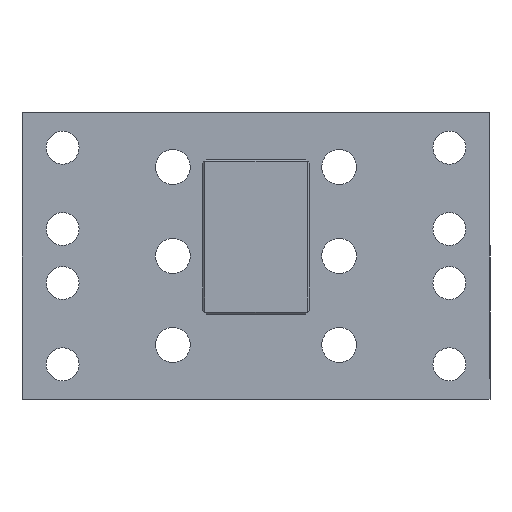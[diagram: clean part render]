
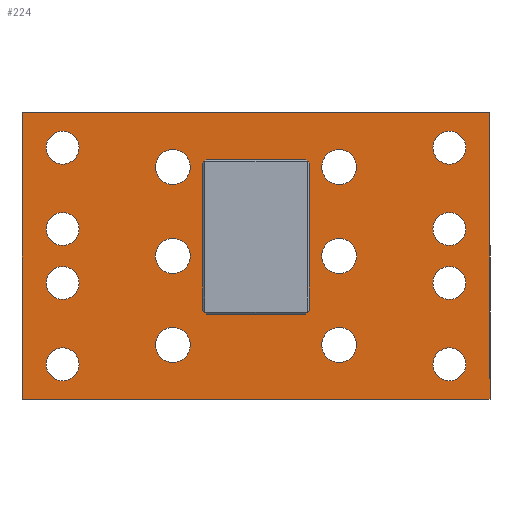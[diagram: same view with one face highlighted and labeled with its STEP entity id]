
A CAD part, front view. The second image highlights one B-rep face of the part: STEP entity #224.
In plain terms, the highlighted planar face has unit normal (0, -1, 0).
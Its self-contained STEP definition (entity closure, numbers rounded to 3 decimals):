
#224=ADVANCED_FACE('',(#719,#721,#723,#725,#727,#729,#731,#733,#735,#737,#739,#741,
#743,#745,#747,#749),#751,.F.);
#719=FACE_BOUND('',#720,.T.);
#720=EDGE_LOOP('',(#1065,#1066,#1067,#1068));
#721=FACE_BOUND('',#722,.T.);
#722=EDGE_LOOP('',(#1069,#1070,#1071,#1072,#1073,#1074,#1075,#1076));
#723=FACE_BOUND('',#724,.T.);
#724=EDGE_LOOP('',(#1077));
#725=FACE_BOUND('',#726,.T.);
#726=EDGE_LOOP('',(#1078));
#727=FACE_BOUND('',#728,.T.);
#728=EDGE_LOOP('',(#1079));
#729=FACE_BOUND('',#730,.T.);
#730=EDGE_LOOP('',(#1080));
#731=FACE_BOUND('',#732,.T.);
#732=EDGE_LOOP('',(#1081));
#733=FACE_BOUND('',#734,.T.);
#734=EDGE_LOOP('',(#1082));
#735=FACE_BOUND('',#736,.T.);
#736=EDGE_LOOP('',(#1083));
#737=FACE_BOUND('',#738,.T.);
#738=EDGE_LOOP('',(#1084));
#739=FACE_BOUND('',#740,.T.);
#740=EDGE_LOOP('',(#1085));
#741=FACE_BOUND('',#742,.T.);
#742=EDGE_LOOP('',(#1086));
#743=FACE_BOUND('',#744,.T.);
#744=EDGE_LOOP('',(#1087));
#745=FACE_BOUND('',#746,.T.);
#746=EDGE_LOOP('',(#1088));
#747=FACE_BOUND('',#748,.T.);
#748=EDGE_LOOP('',(#1089));
#749=FACE_BOUND('',#750,.T.);
#750=EDGE_LOOP('',(#1090));
#751=PLANE('',#752);
#752=AXIS2_PLACEMENT_3D('',#753,#754,#755);
#753=CARTESIAN_POINT('',(60.5,-5.,-35.));
#754=DIRECTION('',(0.,1.,0.));
#755=DIRECTION('',(-1.,0.,0.));
#1065=ORIENTED_EDGE('',*,*,#1263,.F.);
#1066=ORIENTED_EDGE('',*,*,#1264,.T.);
#1067=ORIENTED_EDGE('',*,*,#1265,.F.);
#1068=ORIENTED_EDGE('',*,*,#1266,.T.);
#1069=ORIENTED_EDGE('',*,*,#1267,.F.);
#1070=ORIENTED_EDGE('',*,*,#1268,.F.);
#1071=ORIENTED_EDGE('',*,*,#1269,.F.);
#1072=ORIENTED_EDGE('',*,*,#1270,.F.);
#1073=ORIENTED_EDGE('',*,*,#1271,.F.);
#1074=ORIENTED_EDGE('',*,*,#1272,.T.);
#1075=ORIENTED_EDGE('',*,*,#1273,.F.);
#1076=ORIENTED_EDGE('',*,*,#1274,.T.);
#1077=ORIENTED_EDGE('',*,*,#1228,.T.);
#1078=ORIENTED_EDGE('',*,*,#1230,.T.);
#1079=ORIENTED_EDGE('',*,*,#1232,.T.);
#1080=ORIENTED_EDGE('',*,*,#1234,.T.);
#1081=ORIENTED_EDGE('',*,*,#1236,.T.);
#1082=ORIENTED_EDGE('',*,*,#1238,.T.);
#1083=ORIENTED_EDGE('',*,*,#1275,.T.);
#1084=ORIENTED_EDGE('',*,*,#1276,.T.);
#1085=ORIENTED_EDGE('',*,*,#1277,.T.);
#1086=ORIENTED_EDGE('',*,*,#1278,.T.);
#1087=ORIENTED_EDGE('',*,*,#1279,.T.);
#1088=ORIENTED_EDGE('',*,*,#1280,.T.);
#1089=ORIENTED_EDGE('',*,*,#1281,.T.);
#1090=ORIENTED_EDGE('',*,*,#1282,.T.);
#1228=EDGE_CURVE('',#1337,#1337,#1338,.T.);
#1230=EDGE_CURVE('',#1341,#1341,#1342,.T.);
#1232=EDGE_CURVE('',#1345,#1345,#1346,.T.);
#1234=EDGE_CURVE('',#1349,#1349,#1350,.T.);
#1236=EDGE_CURVE('',#1353,#1353,#1354,.T.);
#1238=EDGE_CURVE('',#1357,#1357,#1358,.T.);
#1263=EDGE_CURVE('',#1407,#1408,#1409,.F.);
#1264=EDGE_CURVE('',#1407,#1410,#1411,.T.);
#1265=EDGE_CURVE('',#1412,#1410,#1413,.F.);
#1266=EDGE_CURVE('',#1412,#1408,#1414,.T.);
#1267=EDGE_CURVE('',#1415,#1416,#1417,.F.);
#1268=EDGE_CURVE('',#1418,#1415,#1419,.T.);
#1269=EDGE_CURVE('',#1420,#1418,#1421,.F.);
#1270=EDGE_CURVE('',#1422,#1420,#1423,.T.);
#1271=EDGE_CURVE('',#1424,#1422,#1425,.F.);
#1272=EDGE_CURVE('',#1424,#1426,#1427,.T.);
#1273=EDGE_CURVE('',#1428,#1426,#1429,.F.);
#1274=EDGE_CURVE('',#1428,#1416,#1430,.T.);
#1275=EDGE_CURVE('',#1431,#1431,#1432,.T.);
#1276=EDGE_CURVE('',#1433,#1433,#1434,.F.);
#1277=EDGE_CURVE('',#1435,#1435,#1436,.F.);
#1278=EDGE_CURVE('',#1437,#1437,#1438,.F.);
#1279=EDGE_CURVE('',#1439,#1439,#1440,.F.);
#1280=EDGE_CURVE('',#1441,#1441,#1442,.F.);
#1281=EDGE_CURVE('',#1443,#1443,#1444,.F.);
#1282=EDGE_CURVE('',#1445,#1445,#1446,.T.);
#1337=VERTEX_POINT('',#1532);
#1338=CIRCLE('',#1533,4.5);
#1341=VERTEX_POINT('',#1542);
#1342=CIRCLE('',#1543,4.5);
#1345=VERTEX_POINT('',#1552);
#1346=CIRCLE('',#1553,4.5);
#1349=VERTEX_POINT('',#1562);
#1350=CIRCLE('',#1563,4.5);
#1353=VERTEX_POINT('',#1572);
#1354=CIRCLE('',#1573,4.5);
#1357=VERTEX_POINT('',#1582);
#1358=CIRCLE('',#1583,4.5);
#1407=VERTEX_POINT('',#1699);
#1408=VERTEX_POINT('',#1700);
#1409=LINE('',#1701,#1702);
#1410=VERTEX_POINT('',#1704);
#1411=LINE('',#1705,#1706);
#1412=VERTEX_POINT('',#1708);
#1413=LINE('',#1709,#1710);
#1414=LINE('',#1712,#1713);
#1415=VERTEX_POINT('',#1715);
#1416=VERTEX_POINT('',#1716);
#1417=LINE('',#1717,#1718);
#1418=VERTEX_POINT('',#1720);
#1419=LINE('',#1721,#1722);
#1420=VERTEX_POINT('',#1724);
#1421=LINE('',#1725,#1726);
#1422=VERTEX_POINT('',#1728);
#1423=LINE('',#1729,#1730);
#1424=VERTEX_POINT('',#1732);
#1425=LINE('',#1733,#1734);
#1426=VERTEX_POINT('',#1736);
#1427=LINE('',#1737,#1738);
#1428=VERTEX_POINT('',#1740);
#1429=LINE('',#1741,#1742);
#1430=LINE('',#1744,#1745);
#1431=VERTEX_POINT('',#1747);
#1432=CIRCLE('',#1748,4.25);
#1433=VERTEX_POINT('',#1752);
#1434=CIRCLE('',#1753,4.25);
#1435=VERTEX_POINT('',#1757);
#1436=CIRCLE('',#1758,4.25);
#1437=VERTEX_POINT('',#1762);
#1438=CIRCLE('',#1763,4.25);
#1439=VERTEX_POINT('',#1767);
#1440=CIRCLE('',#1768,4.25);
#1441=VERTEX_POINT('',#1772);
#1442=CIRCLE('',#1773,4.25);
#1443=VERTEX_POINT('',#1777);
#1444=CIRCLE('',#1778,4.25);
#1445=VERTEX_POINT('',#1782);
#1446=CIRCLE('',#1783,4.25);
#1532=CARTESIAN_POINT('',(-17.,-5.,-23.));
#1533=AXIS2_PLACEMENT_3D('',#1534,#1535,#1536);
#1534=CARTESIAN_POINT('',(-21.5,-5.,-23.));
#1535=DIRECTION('',(0.,1.,0.));
#1536=DIRECTION('',(1.,0.,0.));
#1542=CARTESIAN_POINT('',(-17.,-5.,0.));
#1543=AXIS2_PLACEMENT_3D('',#1544,#1545,#1546);
#1544=CARTESIAN_POINT('',(-21.5,-5.,0.));
#1545=DIRECTION('',(0.,1.,0.));
#1546=DIRECTION('',(1.,0.,0.));
#1552=CARTESIAN_POINT('',(26.,-5.,-23.));
#1553=AXIS2_PLACEMENT_3D('',#1554,#1555,#1556);
#1554=CARTESIAN_POINT('',(21.5,-5.,-23.));
#1555=DIRECTION('',(0.,1.,0.));
#1556=DIRECTION('',(1.,0.,0.));
#1562=CARTESIAN_POINT('',(26.,-5.,0.));
#1563=AXIS2_PLACEMENT_3D('',#1564,#1565,#1566);
#1564=CARTESIAN_POINT('',(21.5,-5.,0.));
#1565=DIRECTION('',(0.,1.,0.));
#1566=DIRECTION('',(1.,0.,0.));
#1572=CARTESIAN_POINT('',(-17.,-5.,23.));
#1573=AXIS2_PLACEMENT_3D('',#1574,#1575,#1576);
#1574=CARTESIAN_POINT('',(-21.5,-5.,23.));
#1575=DIRECTION('',(0.,1.,0.));
#1576=DIRECTION('',(1.,0.,0.));
#1582=CARTESIAN_POINT('',(26.,-5.,23.));
#1583=AXIS2_PLACEMENT_3D('',#1584,#1585,#1586);
#1584=CARTESIAN_POINT('',(21.5,-5.,23.));
#1585=DIRECTION('',(0.,1.,0.));
#1586=DIRECTION('',(1.,0.,0.));
#1699=CARTESIAN_POINT('',(60.5,-5.,37.));
#1700=CARTESIAN_POINT('',(60.5,-5.,-37.));
#1701=CARTESIAN_POINT('',(60.5,-5.,-37.));
#1702=VECTOR('',#1703,1.);
#1703=DIRECTION('',(0.,0.,1.));
#1704=CARTESIAN_POINT('',(-60.5,-5.,37.));
#1705=CARTESIAN_POINT('',(60.5,-5.,37.));
#1706=VECTOR('',#1707,1.);
#1707=DIRECTION('',(-1.,0.,0.));
#1708=CARTESIAN_POINT('',(-60.5,-5.,-37.));
#1709=CARTESIAN_POINT('',(-60.5,-5.,37.));
#1710=VECTOR('',#1711,1.);
#1711=DIRECTION('',(0.,0.,-1.));
#1712=CARTESIAN_POINT('',(-60.5,-5.,-37.));
#1713=VECTOR('',#1714,1.);
#1714=DIRECTION('',(1.,0.,0.));
#1715=CARTESIAN_POINT('',(13.8,-5.,24.));
#1716=CARTESIAN_POINT('',(12.8,-5.,25.));
#1717=CARTESIAN_POINT('',(12.8,-5.,25.));
#1718=VECTOR('',#1719,1.);
#1719=DIRECTION('',(0.707,0.,-0.707));
#1720=CARTESIAN_POINT('',(13.8,-5.,-14.));
#1721=CARTESIAN_POINT('',(13.8,-5.,-14.));
#1722=VECTOR('',#1723,1.);
#1723=DIRECTION('',(0.,0.,1.));
#1724=CARTESIAN_POINT('',(12.8,-5.,-15.));
#1725=CARTESIAN_POINT('',(13.8,-5.,-14.));
#1726=VECTOR('',#1727,1.);
#1727=DIRECTION('',(-0.707,0.,-0.707));
#1728=CARTESIAN_POINT('',(-12.8,-5.,-15.));
#1729=CARTESIAN_POINT('',(-12.8,-5.,-15.));
#1730=VECTOR('',#1731,1.);
#1731=DIRECTION('',(1.,0.,0.));
#1732=CARTESIAN_POINT('',(-13.8,-5.,-14.));
#1733=CARTESIAN_POINT('',(-12.8,-5.,-15.));
#1734=VECTOR('',#1735,1.);
#1735=DIRECTION('',(-0.707,0.,0.707));
#1736=CARTESIAN_POINT('',(-13.8,-5.,24.));
#1737=CARTESIAN_POINT('',(-13.8,-5.,-14.));
#1738=VECTOR('',#1739,1.);
#1739=DIRECTION('',(0.,0.,1.));
#1740=CARTESIAN_POINT('',(-12.8,-5.,25.));
#1741=CARTESIAN_POINT('',(-13.8,-5.,24.));
#1742=VECTOR('',#1743,1.);
#1743=DIRECTION('',(0.707,0.,0.707));
#1744=CARTESIAN_POINT('',(-12.8,-5.,25.));
#1745=VECTOR('',#1746,1.);
#1746=DIRECTION('',(1.,0.,0.));
#1747=CARTESIAN_POINT('',(-54.25,-5.,-7.));
#1748=AXIS2_PLACEMENT_3D('',#1749,#1750,#1751);
#1749=CARTESIAN_POINT('',(-50.,-5.,-7.));
#1750=DIRECTION('',(0.,1.,0.));
#1751=DIRECTION('',(-1.,0.,0.));
#1752=CARTESIAN_POINT('',(-54.25,-5.,28.));
#1753=AXIS2_PLACEMENT_3D('',#1754,#1755,#1756);
#1754=CARTESIAN_POINT('',(-50.,-5.,28.));
#1755=DIRECTION('',(0.,-1.,0.));
#1756=DIRECTION('',(-1.,0.,0.));
#1757=CARTESIAN_POINT('',(54.25,-5.,-7.));
#1758=AXIS2_PLACEMENT_3D('',#1759,#1760,#1761);
#1759=CARTESIAN_POINT('',(50.,-5.,-7.));
#1760=DIRECTION('',(0.,-1.,0.));
#1761=DIRECTION('',(1.,0.,0.));
#1762=CARTESIAN_POINT('',(54.25,-5.,28.));
#1763=AXIS2_PLACEMENT_3D('',#1764,#1765,#1766);
#1764=CARTESIAN_POINT('',(50.,-5.,28.));
#1765=DIRECTION('',(0.,-1.,0.));
#1766=DIRECTION('',(1.,0.,0.));
#1767=CARTESIAN_POINT('',(54.25,-5.,7.));
#1768=AXIS2_PLACEMENT_3D('',#1769,#1770,#1771);
#1769=CARTESIAN_POINT('',(50.,-5.,7.));
#1770=DIRECTION('',(0.,-1.,0.));
#1771=DIRECTION('',(1.,0.,0.));
#1772=CARTESIAN_POINT('',(54.25,-5.,-28.));
#1773=AXIS2_PLACEMENT_3D('',#1774,#1775,#1776);
#1774=CARTESIAN_POINT('',(50.,-5.,-28.));
#1775=DIRECTION('',(0.,-1.,0.));
#1776=DIRECTION('',(1.,0.,0.));
#1777=CARTESIAN_POINT('',(-54.25,-5.,7.));
#1778=AXIS2_PLACEMENT_3D('',#1779,#1780,#1781);
#1779=CARTESIAN_POINT('',(-50.,-5.,7.));
#1780=DIRECTION('',(0.,-1.,0.));
#1781=DIRECTION('',(-1.,0.,0.));
#1782=CARTESIAN_POINT('',(-54.25,-5.,-28.));
#1783=AXIS2_PLACEMENT_3D('',#1784,#1785,#1786);
#1784=CARTESIAN_POINT('',(-50.,-5.,-28.));
#1785=DIRECTION('',(0.,1.,0.));
#1786=DIRECTION('',(-1.,0.,0.));
